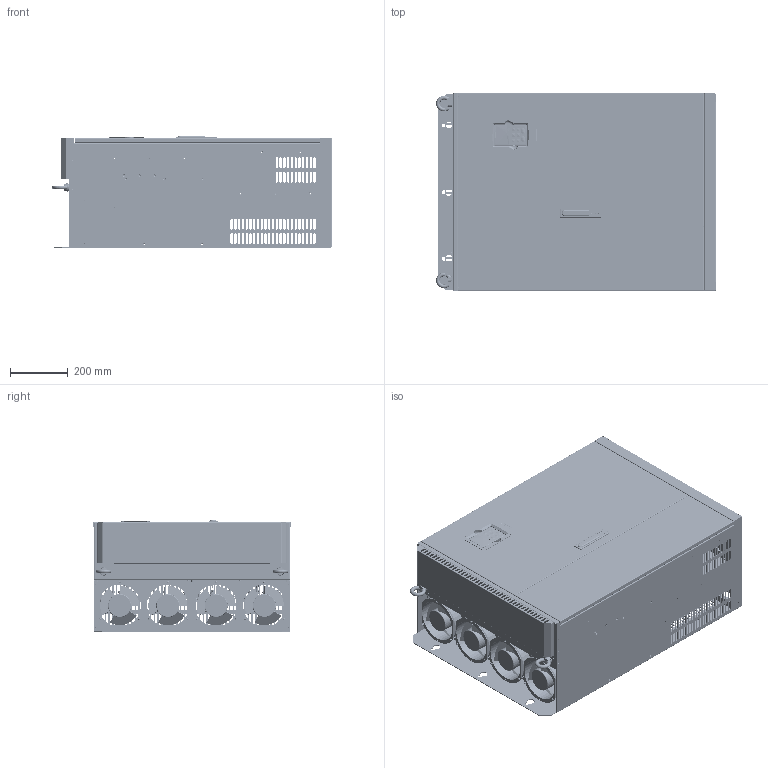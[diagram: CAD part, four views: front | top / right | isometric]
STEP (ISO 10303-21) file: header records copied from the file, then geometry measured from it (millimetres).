
FILE_DESCRIPTION((''),'2;1');
FILE_NAME('GD300-315G-4_ASM','2016-08-26T',('Administrator'),(''),'PRO/ENGINEER BY PARAMETRIC TECHNOLOGY CORPORATION, 2010100','PRO/ENGINEER BY PARAMETRIC TECHNOLOGY CORPORATION, 2010100','');
FILE_SCHEMA(('CONFIG_CONTROL_DESIGN'));
Products named in the file (117): 30001-00045; 150-FAN-ASM_ASM; 39004-00037; LED-01; 01; TNF-6; 80780002; INVT8_034_0058__0; INVT8_034_0059__0; INVT8_034_0065__0; INVT8_034_0064__0; SHUMAGUAN__0; JIANPENG_ASM; CONTROL_PCB_01__; 36004-00077_OULU; 36004-00078_DEGSON; CONTROL_PCB_05_ASM; 39004-00035; GD300-315G-4-ES-F2_ASM; GB9074_4_M4X60; GB9074_4_M4X35; GB9074_4_M4X30; GB9074_4_M4X12; GB9074_13_M6X16; GB9074_13_M6X20; GB9074_13_M5X16; GB9074_4_M4X10; GB9074_13_M8X25; GB5781_M8X30_ZU; GB12_M12X35_FEI_ZU; GB97_1_12_ZU; GB93_12_ZU; GB6170_M12_ZU; 89200002; 89200004; GB9074_4_M3X8; GB97_1_4; GB93_4; GB6170_M4; 89200003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
Assembly tree (832 placements, depth 5):
  GD300-315G-4_ASM
    GD300-315G-4-ES-F2_ASM
      150-FAN-ASM_ASM
        30001-00045  x4
      39004-00037  x6
      LED-01
      01
      TNF-6  x4
      80780002
      JIANPENG_ASM
        INVT8_034_0058__0
        INVT8_034_0059__0
        INVT8_034_0065__0
        INVT8_034_0064__0
        SHUMAGUAN__0
      CONTROL_PCB_05_ASM
        CONTROL_PCB_01__
        36004-00077_OULU
        36004-00078_DEGSON
      39004-00035  x2
    GD300-315G-4-FS-F2_ASM
      GB9074_4_M4X60  x12
      GB9074_4_M4X35  x6
      GB9074_4_M4X30  x2
      GB9074_4_M4X12  x79
      GB9074_13_M6X16  x165
      GB9074_13_M6X20  x36
      GB9074_13_M5X16  x44
      GB9074_4_M4X10  x28
      GB9074_13_M8X25  x8
      GB5781_M8X30_ZU  x22
      GB12_M12X35_FEI_ZU  x18
      GB97_1_12_ZU  x20
      GB93_12_ZU  x21
      GB6170_M12_ZU  x20
      89200002  x2
      89200004  x4
      GB9074_4_M3X8  x8
      GB97_1_4  x4
      GB93_4  x4
      GB6170_M4  x4
      89200003  x9
      GB12_M12X30_FEI_ZU  x2
    40800225_ASM
      61060179_ASM
        80380118_ASM
          80380118
          S-M5-ZC  x2
          S-M4-ZC  x16
        80381360_ASM
          80381360
          S-M6-ZC  x9
          S-M4-ZC  x13
          BSO-M4-12-ZC  x2
          S-M5-ZC  x7
        80380122
        80380113_ASM
          80380113
          S-M8-ZC  x8
          S-M5-ZC  x6
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Bounding box: 965.72 x 680.7 x 387.5 mm (x, y, z)
Volume: 8730860.1 mm3; surface area: 8688667.8 mm2
Topology: 818 solids, 859 shells, 39401 faces, 99539 edges, 63650 vertices
Faces by surface type: plane 22005, cylinder 10036, cone 5488, torus 998, sphere 610, bspline 258, extrusion 5, revolution 1
Entity records: 320597 total; most frequent: CARTESIAN_POINT 70762, DIRECTION 53135, ORIENTED_EDGE 49729, EDGE_CURVE 24913, AXIS2_PLACEMENT_3D 18744, VERTEX_POINT 15976, VECTOR 15646, LINE 15641
